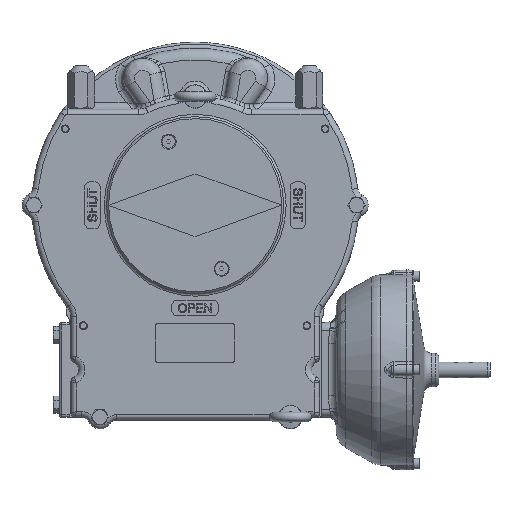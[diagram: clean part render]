
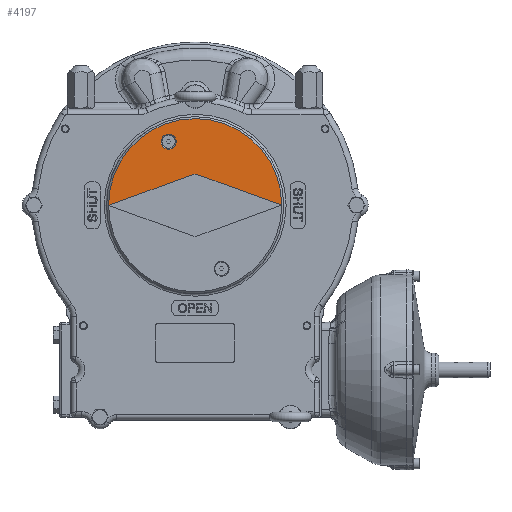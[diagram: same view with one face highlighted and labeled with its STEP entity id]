
A CAD part, top view. The second image highlights one B-rep face of the part: STEP entity #4197.
In plain terms, the highlighted planar face has unit normal (0, 0, 1).
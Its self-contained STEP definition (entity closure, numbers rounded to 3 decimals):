
#4197 = ADVANCED_FACE( '', ( #11240, #11241 ), #11242, .F. );
#11240 = FACE_BOUND( '', #26060, .T. );
#11241 = FACE_OUTER_BOUND( '', #26061, .T. );
#11242 = PLANE( '', #26062 );
#26060 = EDGE_LOOP( '', ( #71090 ) );
#26061 = EDGE_LOOP( '', ( #71091, #71092, #71093, #71094 ) );
#26062 = AXIS2_PLACEMENT_3D( '', #71095, #71096, #71097 );
#71090 = ORIENTED_EDGE( '', *, *, #96619, .T. );
#71091 = ORIENTED_EDGE( '', *, *, #97742, .F. );
#71092 = ORIENTED_EDGE( '', *, *, #98111, .F. );
#71093 = ORIENTED_EDGE( '', *, *, #98112, .F. );
#71094 = ORIENTED_EDGE( '', *, *, #98113, .T. );
#71095 = CARTESIAN_POINT( '', ( 0., 0., 178. ) );
#71096 = DIRECTION( '', ( 0., 0., -1. ) );
#71097 = DIRECTION( '', ( -1., -0.002, 0. ) );
#96619 = EDGE_CURVE( '', #108601, #108601, #108602, .T. );
#97742 = EDGE_CURVE( '', #110520, #110511, #110521, .T. );
#98111 = EDGE_CURVE( '', #111127, #110520, #111128, .T. );
#98112 = EDGE_CURVE( '', #111129, #111127, #111130, .T. );
#98113 = EDGE_CURVE( '', #111129, #110511, #111131, .F. );
#108601 = VERTEX_POINT( '', #127022 );
#108602 = CIRCLE( '', #127023, 9.5 );
#110511 = VERTEX_POINT( '', #132338 );
#110520 = VERTEX_POINT( '', #132351 );
#110521 = LINE( '', #132352, #132353 );
#111127 = VERTEX_POINT( '', #133912 );
#111128 = CIRCLE( '', #133913, 10. );
#111129 = VERTEX_POINT( '', #133914 );
#111130 = LINE( '', #133915, #133916 );
#111131 = CIRCLE( '', #133917, 110. );
#127022 = CARTESIAN_POINT( '', ( -43.123, 80.766, 178. ) );
#127023 = AXIS2_PLACEMENT_3D( '', #167247, #167248, #167249 );
#132338 = CARTESIAN_POINT( '', ( -110., -0.188, 178. ) );
#132351 = CARTESIAN_POINT( '', ( -3.486, 38.786, 178. ) );
#132352 = CARTESIAN_POINT( '', ( -110., -0.188, 178. ) );
#132353 = VECTOR( '', #168548, 1000. );
#133912 = CARTESIAN_POINT( '', ( 3.354, 38.798, 178. ) );
#133913 = AXIS2_PLACEMENT_3D( '', #168968, #168969, #168970 );
#133914 = CARTESIAN_POINT( '', ( 110., 0.188, 178. ) );
#133915 = CARTESIAN_POINT( '', ( 110., 0.188, 178. ) );
#133916 = VECTOR( '', #168971, 1000. );
#133917 = AXIS2_PLACEMENT_3D( '', #168972, #168973, #168974 );
#167247 = CARTESIAN_POINT( '', ( -33.623, 80.782, 178. ) );
#167248 = DIRECTION( '', ( 0., 0., -1. ) );
#167249 = DIRECTION( '', ( -1., -0.002, 0. ) );
#168548 = DIRECTION( '', ( -0.939, -0.344, 0. ) );
#168968 = CARTESIAN_POINT( '', ( -0.05, 29.395, 178. ) );
#168969 = DIRECTION( '', ( 0., 0., 1. ) );
#168970 = DIRECTION( '', ( 1., 0.002, 0. ) );
#168971 = DIRECTION( '', ( -0.94, 0.34, 0. ) );
#168972 = CARTESIAN_POINT( '', ( 0., 0., 178. ) );
#168973 = DIRECTION( '', ( 0., 0., -1. ) );
#168974 = DIRECTION( '', ( -1., -0.002, 0. ) );
